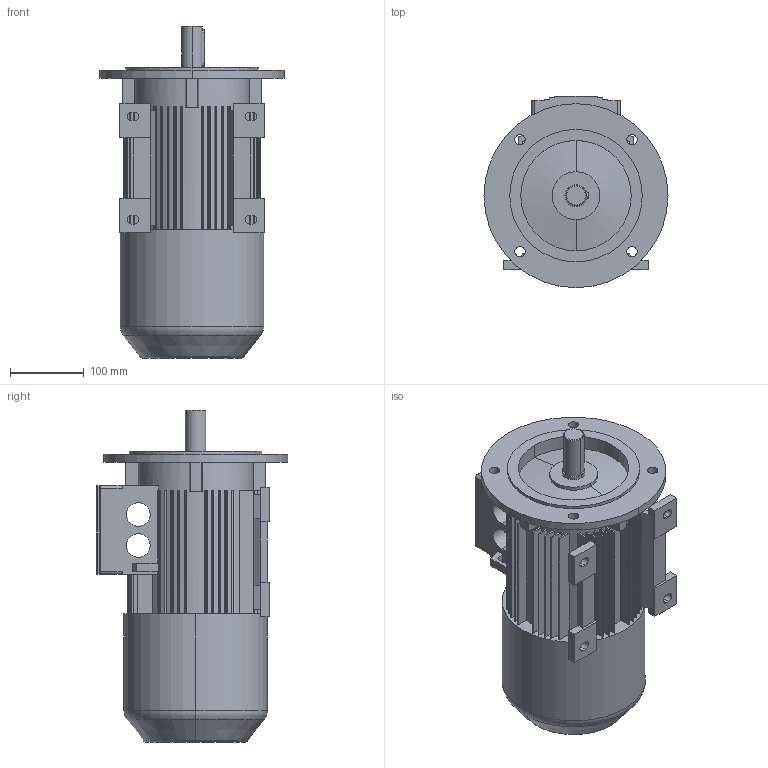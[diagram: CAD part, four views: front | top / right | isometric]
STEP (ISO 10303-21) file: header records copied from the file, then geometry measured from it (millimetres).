
FILE_DESCRIPTION((''),'2;1');
FILE_NAME('1LA7106-2AA16-Z-G26_PRT','2002-04-12T',('martin könig'),(''),'PRO/ENGINEER BY PARAMETRIC TECHNOLOGY CORPORATION, 2002030','PRO/ENGINEER BY PARAMETRIC TECHNOLOGY CORPORATION, 2002030','');
FILE_SCHEMA(('CONFIG_CONTROL_DESIGN'));
Length unit declared in the file: millimetre
Products named in the file (1): 1LA7106-2AA16-Z-G26_PRT
Bounding box: 250 x 260 x 451 mm (x, y, z)
Volume: 10449681.3 mm3; surface area: 619450.7 mm2
Topology: 1 solids, 1 shells, 325 faces, 922 edges, 608 vertices
Faces by surface type: plane 219, cylinder 96, cone 6, torus 4
Entity records: 10683 total; most frequent: CARTESIAN_POINT 1888, ORIENTED_EDGE 1844, DIRECTION 1842, EDGE_CURVE 922, VECTOR 648, LINE 648, VERTEX_POINT 608, AXIS2_PLACEMENT_3D 597
